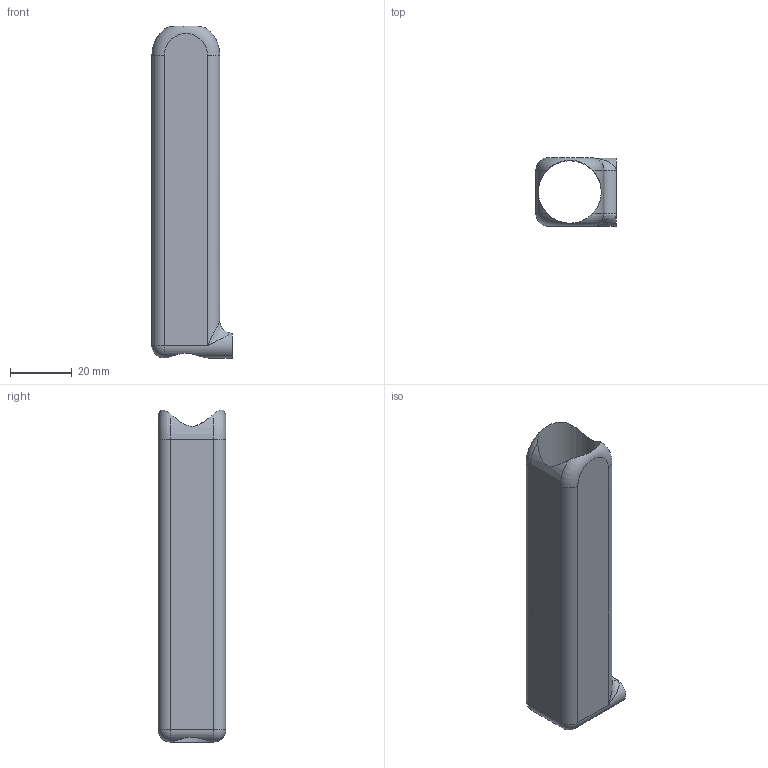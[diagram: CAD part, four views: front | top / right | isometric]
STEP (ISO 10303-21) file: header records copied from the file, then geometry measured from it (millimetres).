
FILE_DESCRIPTION(/* description */ (''),/* implementation_level */ '2;1');
FILE_NAME(/* name */ 'C:/Users/Owner/Desktop/K-CAD Songbird PM4 Centerfire/STEP/Barrels/Barrel Type 2/Barrel Type 2 .8 inch ID.step',/* time_stamp */ '2020-12-05T21:33:24-05:00',/* author */ (''),/* organization */ (''),/* preprocessor_version */ 'ST-DEVELOPER v18.1',/* originating_system */ 'Autodesk Translation Framework v9.3.0.1241',/* authorisation */ '');
FILE_SCHEMA (('AUTOMOTIVE_DESIGN { 1 0 10303 214 3 1 1 }'));
Length unit declared in the file: inch
Products named in the file (1): Barrel Type 2 .8 inch ID
Bounding box: 26 x 22 x 107.48 mm (x, y, z)
Volume: 15744.9 mm3; surface area: 15514.9 mm2
Topology: 1 solids, 1 shells, 23 faces, 60 edges, 34 vertices
Faces by surface type: cylinder 11, plane 6, torus 2, sphere 2, bspline 2
Full cylindrical faces by diameter (mm): 20.32 x1
Entity records: 899 total; most frequent: CARTESIAN_POINT 311, DIRECTION 119, ORIENTED_EDGE 114, EDGE_CURVE 57, AXIS2_PLACEMENT_3D 50, VERTEX_POINT 34, CIRCLE 24, FACE_OUTER_BOUND 23
